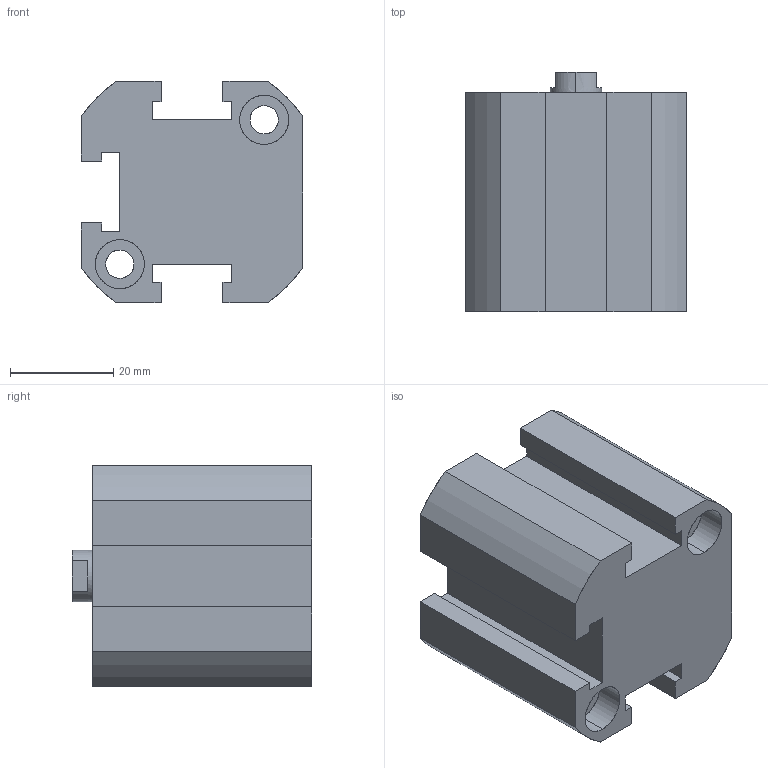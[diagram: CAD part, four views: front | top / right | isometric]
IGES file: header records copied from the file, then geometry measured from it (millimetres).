
Start section: SolidWorks IGES file using analytic representation for surfaces
Global section: file name: C:\Users\Toshiba\Desktop\XG#2-25D-10.IGS; native system: SolidWorks 2014; preprocessor: SolidWorks 2014; author: Toshiba; date: 160524.094733; units: millimetre
Bounding box: 43 x 46.5 x 43 mm (x, y, z)
Surface area: 14962.1 mm2 (no closed solid volume)
Topology: 0 solids, 0 shells, 92 faces, 1306 edges, 1300 vertices
Faces by surface type: revolution 48, bspline 44
